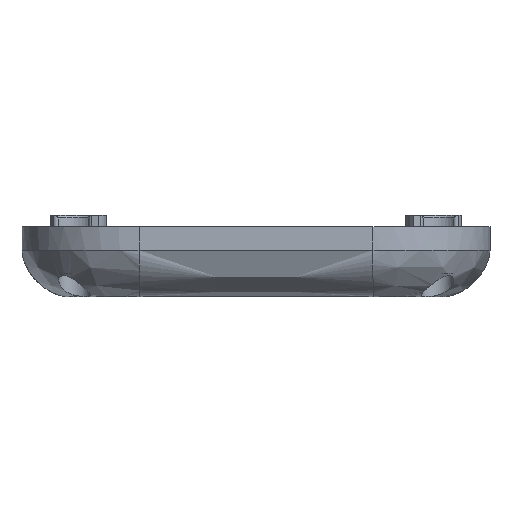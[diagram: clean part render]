
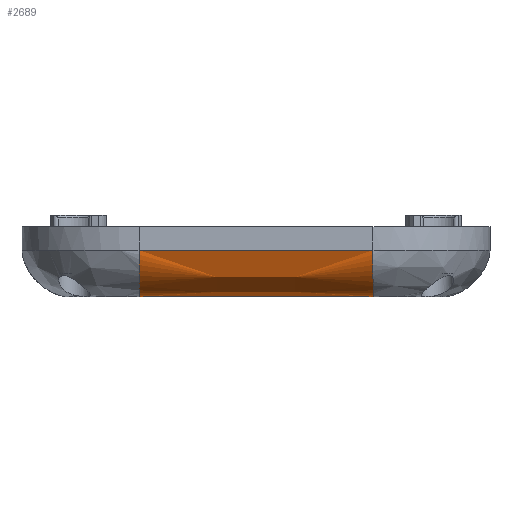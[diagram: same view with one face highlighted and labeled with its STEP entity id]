
A CAD part, front view. The second image highlights one B-rep face of the part: STEP entity #2689.
In plain terms, the highlighted free-form (B-spline) face has degree [3, 3] with [7, 4] control points.
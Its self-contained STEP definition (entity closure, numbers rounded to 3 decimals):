
#49=B_SPLINE_SURFACE_WITH_KNOTS('',3,3,((#5204,#5205,#5206,#5207),(#5208,
#5209,#5210,#5211),(#5212,#5213,#5214,#5215),(#5216,#5217,#5218,#5219),
(#5220,#5221,#5222,#5223),(#5224,#5225,#5226,#5227),(#5228,#5229,#5230,
#5231)),.UNSPECIFIED.,.F.,.F.,.F.,(4,1,1,1,4),(4,4),(0.,0.286,
0.571,0.857,1.),(12.884,16.884),
 .UNSPECIFIED.);
#83=B_SPLINE_CURVE_WITH_KNOTS('',3,(#4110,#4111,#4112,#4113,#4114,#4115,
#4116),.UNSPECIFIED.,.F.,.F.,(4,1,1,1,4),(-1.,-0.857,-0.571,
-0.286,0.),.UNSPECIFIED.);
#102=B_SPLINE_CURVE_WITH_KNOTS('',3,(#4649,#4650,#4651,#4652),
 .UNSPECIFIED.,.F.,.F.,(4,4),(-16.884,-12.884),
 .UNSPECIFIED.);
#124=B_SPLINE_CURVE_WITH_KNOTS('',3,(#5197,#5198,#5199,#5200,#5201,#5202,
#5203),.UNSPECIFIED.,.F.,.F.,(4,1,1,1,4),(0.,0.286,0.571,
0.857,1.),.UNSPECIFIED.);
#125=B_SPLINE_CURVE_WITH_KNOTS('',3,(#5232,#5233,#5234,#5235),
 .UNSPECIFIED.,.F.,.F.,(4,4),(12.884,16.884),
 .UNSPECIFIED.);
#394=FACE_OUTER_BOUND('',#554,.T.);
#554=EDGE_LOOP('',(#2038,#2039,#2040,#2041));
#1088=VERTEX_POINT('',#4020);
#1091=VERTEX_POINT('',#4099);
#1142=VERTEX_POINT('',#4648);
#1204=VERTEX_POINT('',#5188);
#1374=EDGE_CURVE('',#1088,#1091,#83,.T.);
#1441=EDGE_CURVE('',#1091,#1142,#102,.T.);
#1527=EDGE_CURVE('',#1204,#1142,#124,.T.);
#1528=EDGE_CURVE('',#1204,#1088,#125,.T.);
#2038=ORIENTED_EDGE('',*,*,#1528,.T.);
#2039=ORIENTED_EDGE('',*,*,#1374,.T.);
#2040=ORIENTED_EDGE('',*,*,#1441,.T.);
#2041=ORIENTED_EDGE('',*,*,#1527,.F.);
#2689=ADVANCED_FACE('',(#394),#49,.T.);
#4020=CARTESIAN_POINT('',(-20.,-75.,-16.));
#4099=CARTESIAN_POINT('',(-20.,-67.,-24.));
#4110=CARTESIAN_POINT('Ctrl Pts',(-20.,-75.,-16.));
#4111=CARTESIAN_POINT('Ctrl Pts',(-20.,-75.,-16.407));
#4112=CARTESIAN_POINT('Ctrl Pts',(-20.,-74.853,-17.765));
#4113=CARTESIAN_POINT('Ctrl Pts',(-20.,-73.39,-20.743));
#4114=CARTESIAN_POINT('Ctrl Pts',(-20.,-69.903,-23.557));
#4115=CARTESIAN_POINT('Ctrl Pts',(-20.,-67.814,-24.));
#4116=CARTESIAN_POINT('Ctrl Pts',(-20.,-67.,-24.));
#4648=CARTESIAN_POINT('',(20.,-67.,-24.));
#4649=CARTESIAN_POINT('Ctrl Pts',(-20.,-67.,-24.));
#4650=CARTESIAN_POINT('Ctrl Pts',(-6.648,-67.,-24.));
#4651=CARTESIAN_POINT('Ctrl Pts',(6.648,-67.,-24.));
#4652=CARTESIAN_POINT('Ctrl Pts',(20.,-67.,-24.));
#5188=CARTESIAN_POINT('',(20.,-75.,-16.));
#5197=CARTESIAN_POINT('Ctrl Pts',(20.,-75.,-16.));
#5198=CARTESIAN_POINT('Ctrl Pts',(20.,-75.,-16.814));
#5199=CARTESIAN_POINT('Ctrl Pts',(20.,-74.557,-18.903));
#5200=CARTESIAN_POINT('Ctrl Pts',(20.,-71.743,-22.39));
#5201=CARTESIAN_POINT('Ctrl Pts',(20.,-68.765,-23.853));
#5202=CARTESIAN_POINT('Ctrl Pts',(20.,-67.407,-24.));
#5203=CARTESIAN_POINT('Ctrl Pts',(20.,-67.,-24.));
#5204=CARTESIAN_POINT('Ctrl Pts',(20.,-67.,-24.));
#5205=CARTESIAN_POINT('Ctrl Pts',(6.648,-67.,-24.));
#5206=CARTESIAN_POINT('Ctrl Pts',(-6.648,-67.,-24.));
#5207=CARTESIAN_POINT('Ctrl Pts',(-20.,-67.,-24.));
#5208=CARTESIAN_POINT('Ctrl Pts',(20.,-67.814,-24.));
#5209=CARTESIAN_POINT('Ctrl Pts',(6.648,-67.814,-24.));
#5210=CARTESIAN_POINT('Ctrl Pts',(-6.648,-67.814,-24.));
#5211=CARTESIAN_POINT('Ctrl Pts',(-20.,-67.814,-24.));
#5212=CARTESIAN_POINT('Ctrl Pts',(20.,-69.903,-23.557));
#5213=CARTESIAN_POINT('Ctrl Pts',(6.648,-69.903,-23.557));
#5214=CARTESIAN_POINT('Ctrl Pts',(-6.648,-69.903,-23.557));
#5215=CARTESIAN_POINT('Ctrl Pts',(-20.,-69.903,-23.557));
#5216=CARTESIAN_POINT('Ctrl Pts',(20.,-73.39,-20.743));
#5217=CARTESIAN_POINT('Ctrl Pts',(6.648,-73.39,-20.743));
#5218=CARTESIAN_POINT('Ctrl Pts',(-6.648,-73.39,-20.743));
#5219=CARTESIAN_POINT('Ctrl Pts',(-20.,-73.39,-20.743));
#5220=CARTESIAN_POINT('Ctrl Pts',(20.,-74.853,-17.765));
#5221=CARTESIAN_POINT('Ctrl Pts',(6.648,-74.853,-17.765));
#5222=CARTESIAN_POINT('Ctrl Pts',(-6.648,-74.853,-17.765));
#5223=CARTESIAN_POINT('Ctrl Pts',(-20.,-74.853,-17.765));
#5224=CARTESIAN_POINT('Ctrl Pts',(20.,-75.,-16.407));
#5225=CARTESIAN_POINT('Ctrl Pts',(6.648,-75.,-16.407));
#5226=CARTESIAN_POINT('Ctrl Pts',(-6.648,-75.,-16.407));
#5227=CARTESIAN_POINT('Ctrl Pts',(-20.,-75.,-16.407));
#5228=CARTESIAN_POINT('Ctrl Pts',(20.,-75.,-16.));
#5229=CARTESIAN_POINT('Ctrl Pts',(6.648,-75.,-16.));
#5230=CARTESIAN_POINT('Ctrl Pts',(-6.648,-75.,-16.));
#5231=CARTESIAN_POINT('Ctrl Pts',(-20.,-75.,-16.));
#5232=CARTESIAN_POINT('Ctrl Pts',(20.,-75.,-16.));
#5233=CARTESIAN_POINT('Ctrl Pts',(6.648,-75.,-16.));
#5234=CARTESIAN_POINT('Ctrl Pts',(-6.648,-75.,-16.));
#5235=CARTESIAN_POINT('Ctrl Pts',(-20.,-75.,-16.));
